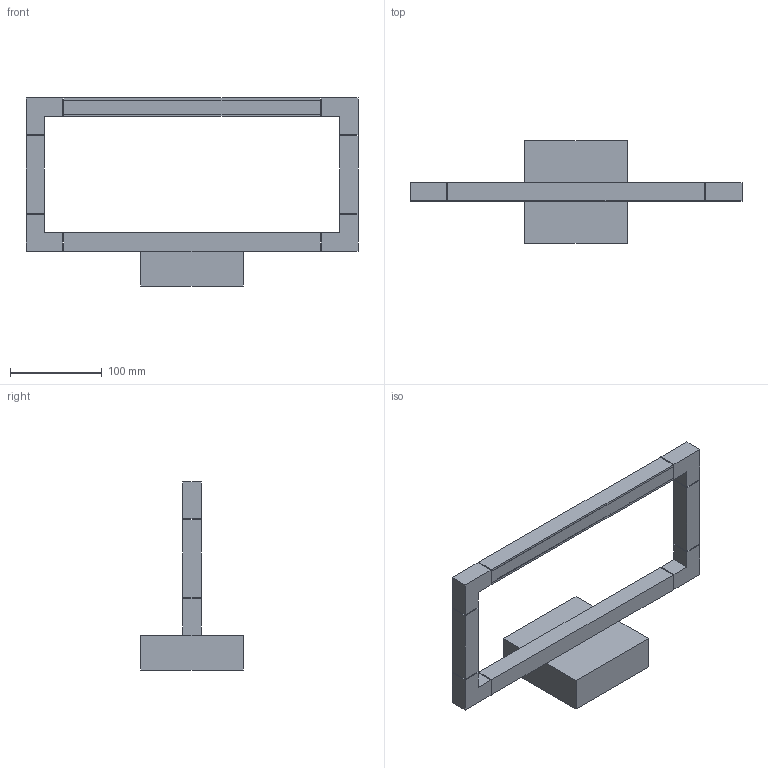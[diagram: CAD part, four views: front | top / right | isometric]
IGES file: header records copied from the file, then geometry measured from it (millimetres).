
Start section: SolidWorks IGES file using analytic representation for surfaces
Global section: file name: C:\Users\tungari.NEMOLIGHTING\Desktop\3D\WALL_CEILING\3D_SPIGOLO_WALLLL\EF\3D_SPIGOLO_WALL.IGS; native system: SolidWorks 2016; preprocessor: SolidWorks 2016; author: tungari; date: 180315.172008; units: millimetre
Bounding box: 362 x 112 x 205 mm (x, y, z)
Surface area: 134243 mm2 (no closed solid volume)
Topology: 0 solids, 0 shells, 84 faces, 388 edges, 388 vertices
Faces by surface type: bspline 84
